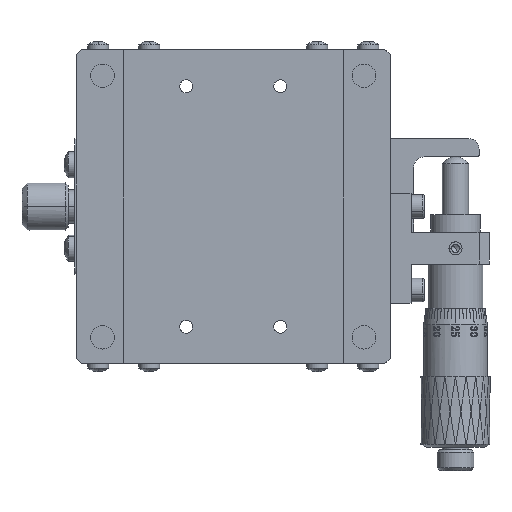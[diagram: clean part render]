
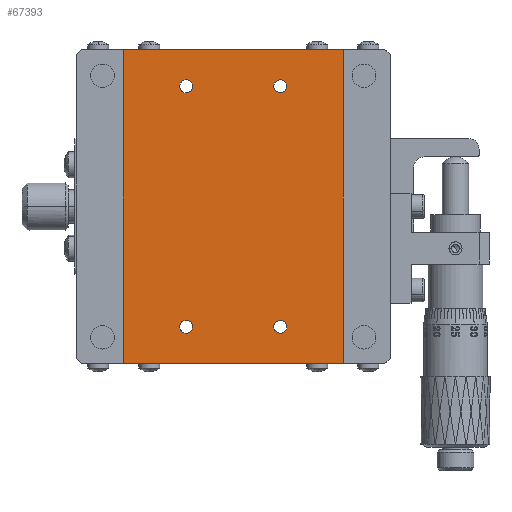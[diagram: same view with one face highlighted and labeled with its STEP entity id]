
A CAD part, front view. The second image highlights one B-rep face of the part: STEP entity #67393.
In plain terms, the highlighted planar face has unit normal (0, -1, 0).
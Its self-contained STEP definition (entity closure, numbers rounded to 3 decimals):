
#1443 = CIRCLE ( 'NONE', #50823, 1.25 ) ;
#1767 = DIRECTION ( 'NONE',  ( 0., 0., 1. ) ) ;
#1782 = CARTESIAN_POINT ( 'NONE',  ( 39.054, 32.855, 55.887 ) ) ;
#2368 = AXIS2_PLACEMENT_3D ( 'NONE', #6639, #28277, #68007 ) ;
#3500 = VECTOR ( 'NONE', #23761, 1000. ) ;
#3559 = VECTOR ( 'NONE', #15847, 1000. ) ;
#3961 = ORIENTED_EDGE ( 'NONE', *, *, #69204, .T. ) ;
#5252 = DIRECTION ( 'NONE',  ( 0., 1., 0. ) ) ;
#5754 = CARTESIAN_POINT ( 'NONE',  ( 39.054, 32.855, 8.637 ) ) ;
#5772 = CARTESIAN_POINT ( 'NONE',  ( 39.054, 32.855, 9.887 ) ) ;
#6116 = VECTOR ( 'NONE', #49525, 1000. ) ;
#6150 = AXIS2_PLACEMENT_3D ( 'NONE', #5772, #85682, #32726 ) ;
#6178 = VECTOR ( 'NONE', #55639, 1000. ) ;
#6639 = CARTESIAN_POINT ( 'NONE',  ( 21.054, 32.855, 55.887 ) ) ;
#8378 = FACE_BOUND ( 'NONE', #22875, .T. ) ;
#9199 = AXIS2_PLACEMENT_3D ( 'NONE', #84869, #58373, #44306 ) ;
#9238 = CARTESIAN_POINT ( 'NONE',  ( 9.054, 32.855, 2.887 ) ) ;
#10247 = VERTEX_POINT ( 'NONE', #52664 ) ;
#10632 = CARTESIAN_POINT ( 'NONE',  ( 51.054, 32.855, 2.887 ) ) ;
#10843 = DIRECTION ( 'NONE',  ( 0., 1., 0. ) ) ;
#15115 = AXIS2_PLACEMENT_3D ( 'NONE', #17507, #10843, #50198 ) ;
#15847 = DIRECTION ( 'NONE',  ( -1., 0., 0. ) ) ;
#15959 = LINE ( 'NONE', #56992, #6116 ) ;
#17132 = VERTEX_POINT ( 'NONE', #79738 ) ;
#17394 = CARTESIAN_POINT ( 'NONE',  ( 39.054, 32.855, 55.887 ) ) ;
#17507 = CARTESIAN_POINT ( 'NONE',  ( 39.054, 32.855, 9.887 ) ) ;
#18262 = DIRECTION ( 'NONE',  ( 0., 0., 1. ) ) ;
#18641 = EDGE_CURVE ( 'NONE', #10247, #58075, #73248, .T. ) ;
#18867 = ORIENTED_EDGE ( 'NONE', *, *, #56733, .T. ) ;
#20749 = CARTESIAN_POINT ( 'NONE',  ( 39.054, 32.855, 11.137 ) ) ;
#20800 = VERTEX_POINT ( 'NONE', #10632 ) ;
#22094 = PLANE ( 'NONE',  #42043 ) ;
#22875 = EDGE_LOOP ( 'NONE', ( #31046, #75759 ) ) ;
#23312 = EDGE_LOOP ( 'NONE', ( #18867, #34504 ) ) ;
#23338 = CARTESIAN_POINT ( 'NONE',  ( 9.054, 32.855, 62.887 ) ) ;
#23761 = DIRECTION ( 'NONE',  ( -1., 0., 0. ) ) ;
#23975 = EDGE_LOOP ( 'NONE', ( #55757, #54468 ) ) ;
#24034 = EDGE_CURVE ( 'NONE', #86526, #65098, #76339, .T. ) ;
#25233 = DIRECTION ( 'NONE',  ( 0., 0., 1. ) ) ;
#25875 = CARTESIAN_POINT ( 'NONE',  ( 39.054, 32.855, 57.137 ) ) ;
#26261 = CARTESIAN_POINT ( 'NONE',  ( 21.054, 32.855, 11.137 ) ) ;
#28277 = DIRECTION ( 'NONE',  ( 0., 1., 0. ) ) ;
#28282 = DIRECTION ( 'NONE',  ( 0., 0., 1. ) ) ;
#29566 = CIRCLE ( 'NONE', #40839, 1.25 ) ;
#29609 = DIRECTION ( 'NONE',  ( 0., 1., 0. ) ) ;
#29806 = ORIENTED_EDGE ( 'NONE', *, *, #76375, .F. ) ;
#30198 = EDGE_CURVE ( 'NONE', #20800, #86526, #15959, .T. ) ;
#31046 = ORIENTED_EDGE ( 'NONE', *, *, #79229, .T. ) ;
#31538 = ORIENTED_EDGE ( 'NONE', *, *, #74773, .F. ) ;
#32726 = DIRECTION ( 'NONE',  ( 0., 0., 1. ) ) ;
#33415 = VERTEX_POINT ( 'NONE', #25875 ) ;
#34008 = CARTESIAN_POINT ( 'NONE',  ( 9.054, 32.855, 62.887 ) ) ;
#34504 = ORIENTED_EDGE ( 'NONE', *, *, #36479, .T. ) ;
#35652 = CARTESIAN_POINT ( 'NONE',  ( 21.054, 32.855, 57.137 ) ) ;
#36479 = EDGE_CURVE ( 'NONE', #63273, #33415, #29566, .T. ) ;
#36548 = LINE ( 'NONE', #57709, #3500 ) ;
#38916 = CARTESIAN_POINT ( 'NONE',  ( 21.054, 32.855, 55.887 ) ) ;
#39273 = CARTESIAN_POINT ( 'NONE',  ( 21.054, 32.855, 9.887 ) ) ;
#40839 = AXIS2_PLACEMENT_3D ( 'NONE', #17394, #85328, #18262 ) ;
#42043 = AXIS2_PLACEMENT_3D ( 'NONE', #69304, #62688, #1767 ) ;
#42104 = AXIS2_PLACEMENT_3D ( 'NONE', #1782, #29609, #28282 ) ;
#42172 = VERTEX_POINT ( 'NONE', #20749 ) ;
#43569 = ORIENTED_EDGE ( 'NONE', *, *, #24034, .T. ) ;
#44306 = DIRECTION ( 'NONE',  ( 0., 0., 1. ) ) ;
#46527 = CIRCLE ( 'NONE', #42104, 1.25 ) ;
#47821 = EDGE_LOOP ( 'NONE', ( #52905, #3961 ) ) ;
#49525 = DIRECTION ( 'NONE',  ( 0., 0., 1. ) ) ;
#50151 = ORIENTED_EDGE ( 'NONE', *, *, #30198, .T. ) ;
#50198 = DIRECTION ( 'NONE',  ( 0., 0., 1. ) ) ;
#50823 = AXIS2_PLACEMENT_3D ( 'NONE', #38916, #73357, #25233 ) ;
#52664 = CARTESIAN_POINT ( 'NONE',  ( 21.054, 32.855, 8.637 ) ) ;
#52905 = ORIENTED_EDGE ( 'NONE', *, *, #86744, .T. ) ;
#52906 = CARTESIAN_POINT ( 'NONE',  ( 21.054, 32.855, 54.637 ) ) ;
#52952 = DIRECTION ( 'NONE',  ( 0., 0., 1. ) ) ;
#53167 = VERTEX_POINT ( 'NONE', #52906 ) ;
#53180 = CIRCLE ( 'NONE', #15115, 1.25 ) ;
#54468 = ORIENTED_EDGE ( 'NONE', *, *, #72788, .T. ) ;
#55639 = DIRECTION ( 'NONE',  ( 0., 0., 1. ) ) ;
#55757 = ORIENTED_EDGE ( 'NONE', *, *, #65056, .T. ) ;
#56733 = EDGE_CURVE ( 'NONE', #33415, #63273, #46527, .T. ) ;
#56992 = CARTESIAN_POINT ( 'NONE',  ( 51.054, 32.855, 2.887 ) ) ;
#57709 = CARTESIAN_POINT ( 'NONE',  ( 9.054, 32.855, 2.887 ) ) ;
#57711 = AXIS2_PLACEMENT_3D ( 'NONE', #39273, #5252, #52952 ) ;
#58075 = VERTEX_POINT ( 'NONE', #26261 ) ;
#58373 = DIRECTION ( 'NONE',  ( 0., 1., 0. ) ) ;
#61383 = FACE_BOUND ( 'NONE', #23975, .T. ) ;
#62260 = FACE_OUTER_BOUND ( 'NONE', #71028, .T. ) ;
#62688 = DIRECTION ( 'NONE',  ( 0., 1., 0. ) ) ;
#63273 = VERTEX_POINT ( 'NONE', #84999 ) ;
#65056 = EDGE_CURVE ( 'NONE', #66504, #53167, #67212, .T. ) ;
#65098 = VERTEX_POINT ( 'NONE', #34008 ) ;
#66504 = VERTEX_POINT ( 'NONE', #35652 ) ;
#67212 = CIRCLE ( 'NONE', #2368, 1.25 ) ;
#67393 = ADVANCED_FACE ( 'NONE', ( #8378, #61383, #81250, #82565, #62260 ), #22094, .F. ) ;
#68007 = DIRECTION ( 'NONE',  ( 0., 0., 1. ) ) ;
#69204 = EDGE_CURVE ( 'NONE', #84908, #42172, #53180, .T. ) ;
#69304 = CARTESIAN_POINT ( 'NONE',  ( 9.054, 32.855, 2.887 ) ) ;
#71028 = EDGE_LOOP ( 'NONE', ( #43569, #29806, #31538, #50151 ) ) ;
#72788 = EDGE_CURVE ( 'NONE', #53167, #66504, #1443, .T. ) ;
#73248 = CIRCLE ( 'NONE', #57711, 1.25 ) ;
#73357 = DIRECTION ( 'NONE',  ( 0., 1., 0. ) ) ;
#74773 = EDGE_CURVE ( 'NONE', #20800, #17132, #36548, .T. ) ;
#75759 = ORIENTED_EDGE ( 'NONE', *, *, #18641, .T. ) ;
#76339 = LINE ( 'NONE', #23338, #3559 ) ;
#76375 = EDGE_CURVE ( 'NONE', #17132, #65098, #83443, .T. ) ;
#79229 = EDGE_CURVE ( 'NONE', #58075, #10247, #85317, .T. ) ;
#79457 = CIRCLE ( 'NONE', #6150, 1.25 ) ;
#79738 = CARTESIAN_POINT ( 'NONE',  ( 9.054, 32.855, 2.887 ) ) ;
#80487 = CARTESIAN_POINT ( 'NONE',  ( 51.054, 32.855, 62.887 ) ) ;
#81250 = FACE_BOUND ( 'NONE', #47821, .T. ) ;
#82565 = FACE_BOUND ( 'NONE', #23312, .T. ) ;
#83443 = LINE ( 'NONE', #9238, #6178 ) ;
#84869 = CARTESIAN_POINT ( 'NONE',  ( 21.054, 32.855, 9.887 ) ) ;
#84908 = VERTEX_POINT ( 'NONE', #5754 ) ;
#84999 = CARTESIAN_POINT ( 'NONE',  ( 39.054, 32.855, 54.637 ) ) ;
#85317 = CIRCLE ( 'NONE', #9199, 1.25 ) ;
#85328 = DIRECTION ( 'NONE',  ( 0., 1., 0. ) ) ;
#85682 = DIRECTION ( 'NONE',  ( 0., 1., 0. ) ) ;
#86526 = VERTEX_POINT ( 'NONE', #80487 ) ;
#86744 = EDGE_CURVE ( 'NONE', #42172, #84908, #79457, .T. ) ;
